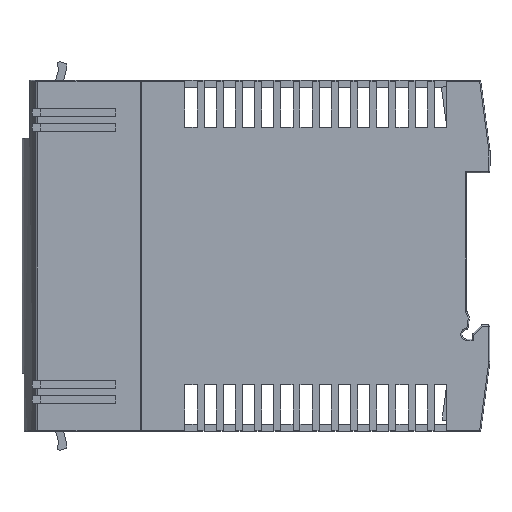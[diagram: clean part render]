
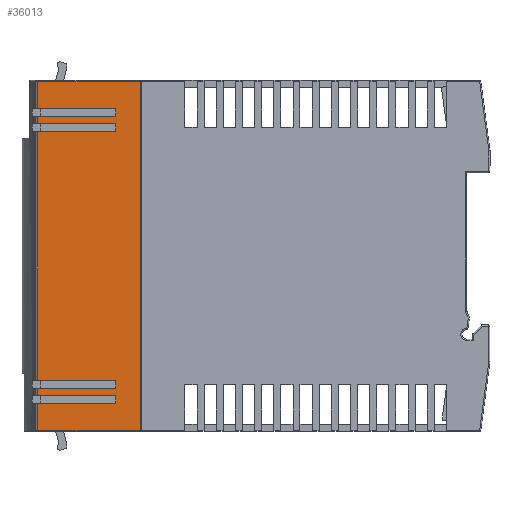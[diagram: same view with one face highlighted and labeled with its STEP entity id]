
A CAD part, front view. The second image highlights one B-rep face of the part: STEP entity #36013.
In plain terms, the highlighted planar face has unit normal (-0.008, -1, 0).
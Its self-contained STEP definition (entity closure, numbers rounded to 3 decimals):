
#7227=ORIENTED_EDGE('',*,*,#11968,.T.);
#7228=ORIENTED_EDGE('',*,*,#11811,.F.);
#7229=ORIENTED_EDGE('',*,*,#11798,.F.);
#7230=ORIENTED_EDGE('',*,*,#11803,.T.);
#7231=ORIENTED_EDGE('',*,*,#11969,.T.);
#7232=ORIENTED_EDGE('',*,*,#11883,.F.);
#7233=ORIENTED_EDGE('',*,*,#11870,.F.);
#7234=ORIENTED_EDGE('',*,*,#11875,.T.);
#7235=ORIENTED_EDGE('',*,*,#11970,.T.);
#7236=ORIENTED_EDGE('',*,*,#11901,.F.);
#7237=ORIENTED_EDGE('',*,*,#11888,.F.);
#7238=ORIENTED_EDGE('',*,*,#11893,.T.);
#7239=ORIENTED_EDGE('',*,*,#11971,.T.);
#7240=ORIENTED_EDGE('',*,*,#11955,.T.);
#7241=ORIENTED_EDGE('',*,*,#11972,.F.);
#7242=ORIENTED_EDGE('',*,*,#11927,.T.);
#7243=ORIENTED_EDGE('',*,*,#11973,.T.);
#7244=ORIENTED_EDGE('',*,*,#11829,.F.);
#7245=ORIENTED_EDGE('',*,*,#11816,.F.);
#7246=ORIENTED_EDGE('',*,*,#11821,.T.);
#11798=EDGE_CURVE('',#14664,#14665,#18105,.T.);
#11803=EDGE_CURVE('',#14664,#14668,#18109,.T.);
#11811=EDGE_CURVE('',#14665,#14676,#18114,.T.);
#11816=EDGE_CURVE('',#14678,#14679,#18117,.T.);
#11821=EDGE_CURVE('',#14678,#14682,#18121,.T.);
#11829=EDGE_CURVE('',#14679,#14690,#18126,.T.);
#11870=EDGE_CURVE('',#14720,#14721,#18153,.T.);
#11875=EDGE_CURVE('',#14720,#14724,#18157,.T.);
#11883=EDGE_CURVE('',#14721,#14732,#18162,.T.);
#11888=EDGE_CURVE('',#14734,#14735,#18165,.T.);
#11893=EDGE_CURVE('',#14734,#14738,#18169,.T.);
#11901=EDGE_CURVE('',#14735,#14746,#18174,.T.);
#11927=EDGE_CURVE('',#14761,#14760,#18191,.F.);
#11955=EDGE_CURVE('',#14780,#14783,#18197,.T.);
#11968=EDGE_CURVE('',#14682,#14676,#18209,.T.);
#11969=EDGE_CURVE('',#14668,#14732,#18210,.T.);
#11970=EDGE_CURVE('',#14724,#14746,#18211,.T.);
#11971=EDGE_CURVE('',#14738,#14780,#18212,.T.);
#11972=EDGE_CURVE('',#14761,#14783,#18213,.T.);
#11973=EDGE_CURVE('',#14760,#14690,#18214,.T.);
#14664=VERTEX_POINT('',#51192);
#14665=VERTEX_POINT('',#51193);
#14668=VERTEX_POINT('',#51201);
#14676=VERTEX_POINT('',#51219);
#14678=VERTEX_POINT('',#51228);
#14679=VERTEX_POINT('',#51229);
#14682=VERTEX_POINT('',#51237);
#14690=VERTEX_POINT('',#51255);
#14720=VERTEX_POINT('',#51336);
#14721=VERTEX_POINT('',#51337);
#14724=VERTEX_POINT('',#51345);
#14732=VERTEX_POINT('',#51363);
#14734=VERTEX_POINT('',#51372);
#14735=VERTEX_POINT('',#51373);
#14738=VERTEX_POINT('',#51381);
#14746=VERTEX_POINT('',#51399);
#14760=VERTEX_POINT('',#51486);
#14761=VERTEX_POINT('',#51488);
#14780=VERTEX_POINT('',#51540);
#14783=VERTEX_POINT('',#51548);
#18105=LINE('',#51191,#21639);
#18109=LINE('',#51203,#21643);
#18114=LINE('',#51218,#21648);
#18117=LINE('',#51227,#21651);
#18121=LINE('',#51239,#21655);
#18126=LINE('',#51254,#21660);
#18153=LINE('',#51335,#21687);
#18157=LINE('',#51347,#21691);
#18162=LINE('',#51362,#21696);
#18165=LINE('',#51371,#21699);
#18169=LINE('',#51383,#21703);
#18174=LINE('',#51398,#21708);
#18191=LINE('',#51487,#21725);
#18197=LINE('',#51550,#21731);
#18209=LINE('',#51570,#21743);
#18210=LINE('',#51571,#21744);
#18211=LINE('',#51572,#21745);
#18212=LINE('',#51573,#21746);
#18213=LINE('',#51574,#21747);
#18214=LINE('',#51575,#21748);
#21639=VECTOR('',#43411,1000.);
#21643=VECTOR('',#43419,1000.);
#21648=VECTOR('',#43432,1000.);
#21651=VECTOR('',#43443,1000.);
#21655=VECTOR('',#43451,1000.);
#21660=VECTOR('',#43464,1000.);
#21687=VECTOR('',#43539,1000.);
#21691=VECTOR('',#43547,1000.);
#21696=VECTOR('',#43560,1000.);
#21699=VECTOR('',#43571,1000.);
#21703=VECTOR('',#43579,1000.);
#21708=VECTOR('',#43592,1000.);
#21725=VECTOR('',#43635,1000.);
#21731=VECTOR('',#43699,1000.);
#21743=VECTOR('',#43721,1000.);
#21744=VECTOR('',#43722,1000.);
#21745=VECTOR('',#43723,1000.);
#21746=VECTOR('',#43724,1000.);
#21747=VECTOR('',#43725,1000.);
#21748=VECTOR('',#43726,1000.);
#23339=EDGE_LOOP('',(#7227,#7228,#7229,#7230,#7231,#7232,#7233,#7234,#7235,
#7236,#7237,#7238,#7239,#7240,#7241,#7242,#7243,#7244,#7245,#7246));
#24747=FACE_BOUND('',#23339,.T.);
#25909=PLANE('',#37615);
#36013=ADVANCED_FACE('',(#24747),#25909,.F.);
#37615=AXIS2_PLACEMENT_3D('',#51569,#43719,#43720);
#43411=DIRECTION('',(0.,0.,1.));
#43419=DIRECTION('',(-1.,0.008,0.));
#43432=DIRECTION('',(-1.,0.008,0.));
#43443=DIRECTION('',(0.,0.,1.));
#43451=DIRECTION('',(-1.,0.008,0.));
#43464=DIRECTION('',(-1.,0.008,0.));
#43539=DIRECTION('',(0.,0.,1.));
#43547=DIRECTION('',(-1.,0.008,0.));
#43560=DIRECTION('',(-1.,0.008,0.));
#43571=DIRECTION('',(0.,0.,1.));
#43579=DIRECTION('',(-1.,0.008,0.));
#43592=DIRECTION('',(-1.,0.008,0.));
#43635=DIRECTION('',(1.,-0.008,0.));
#43699=DIRECTION('',(1.,-0.008,0.));
#43719=DIRECTION('',(0.008,1.,0.));
#43720=DIRECTION('',(1.,-0.008,0.));
#43721=DIRECTION('',(0.,0.,-1.));
#43722=DIRECTION('',(0.,0.,-1.));
#43723=DIRECTION('',(0.,0.,-1.));
#43724=DIRECTION('',(0.,0.,-1.));
#43725=DIRECTION('',(0.,0.,-1.));
#43726=DIRECTION('',(0.,0.,-1.));
#51191=CARTESIAN_POINT('',(-42.74,-5.871,-5.004));
#51192=CARTESIAN_POINT('',(-42.74,-5.871,-15.904));
#51193=CARTESIAN_POINT('',(-42.74,-5.871,-14.204));
#51201=CARTESIAN_POINT('',(-59.434,-5.739,-15.904));
#51203=CARTESIAN_POINT('',(-37.499,-5.913,-15.904));
#51218=CARTESIAN_POINT('',(-37.499,-5.913,-14.204));
#51219=CARTESIAN_POINT('',(-59.434,-5.739,-14.204));
#51227=CARTESIAN_POINT('',(-42.74,-5.871,-5.004));
#51228=CARTESIAN_POINT('',(-42.74,-5.871,-12.704));
#51229=CARTESIAN_POINT('',(-42.74,-5.871,-11.004));
#51237=CARTESIAN_POINT('',(-59.434,-5.739,-12.704));
#51239=CARTESIAN_POINT('',(-37.499,-5.913,-12.704));
#51254=CARTESIAN_POINT('',(-37.499,-5.913,-11.004));
#51255=CARTESIAN_POINT('',(-59.434,-5.739,-11.004));
#51335=CARTESIAN_POINT('',(-42.74,-5.871,-5.004));
#51336=CARTESIAN_POINT('',(-42.74,-5.871,-70.804));
#51337=CARTESIAN_POINT('',(-42.74,-5.871,-69.104));
#51345=CARTESIAN_POINT('',(-59.434,-5.739,-70.804));
#51347=CARTESIAN_POINT('',(-37.499,-5.913,-70.804));
#51362=CARTESIAN_POINT('',(-37.499,-5.913,-69.104));
#51363=CARTESIAN_POINT('',(-59.434,-5.739,-69.104));
#51371=CARTESIAN_POINT('',(-42.74,-5.871,-5.004));
#51372=CARTESIAN_POINT('',(-42.74,-5.871,-74.004));
#51373=CARTESIAN_POINT('',(-42.74,-5.871,-72.304));
#51381=CARTESIAN_POINT('',(-59.434,-5.739,-74.004));
#51383=CARTESIAN_POINT('',(-37.499,-5.913,-74.004));
#51398=CARTESIAN_POINT('',(-37.499,-5.913,-72.304));
#51399=CARTESIAN_POINT('',(-59.434,-5.739,-72.304));
#51486=CARTESIAN_POINT('',(-59.434,-5.739,-5.204));
#51487=CARTESIAN_POINT('',(-59.434,-5.739,-5.204));
#51488=CARTESIAN_POINT('',(-37.499,-5.913,-5.204));
#51540=CARTESIAN_POINT('',(-59.434,-5.739,-79.804));
#51548=CARTESIAN_POINT('',(-37.499,-5.913,-79.804));
#51550=CARTESIAN_POINT('',(-37.499,-5.913,-79.804));
#51569=CARTESIAN_POINT('',(-37.499,-5.913,-5.004));
#51570=CARTESIAN_POINT('',(-59.434,-5.739,-5.004));
#51571=CARTESIAN_POINT('',(-59.434,-5.739,-5.004));
#51572=CARTESIAN_POINT('',(-59.434,-5.739,-5.004));
#51573=CARTESIAN_POINT('',(-59.434,-5.739,-5.004));
#51574=CARTESIAN_POINT('',(-37.499,-5.913,-5.004));
#51575=CARTESIAN_POINT('',(-59.434,-5.739,-5.004));
